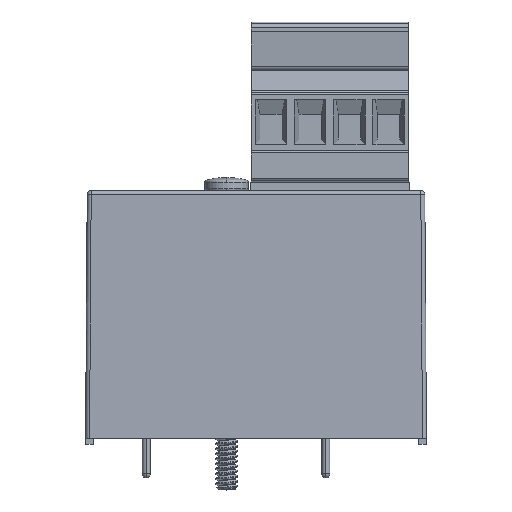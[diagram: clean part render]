
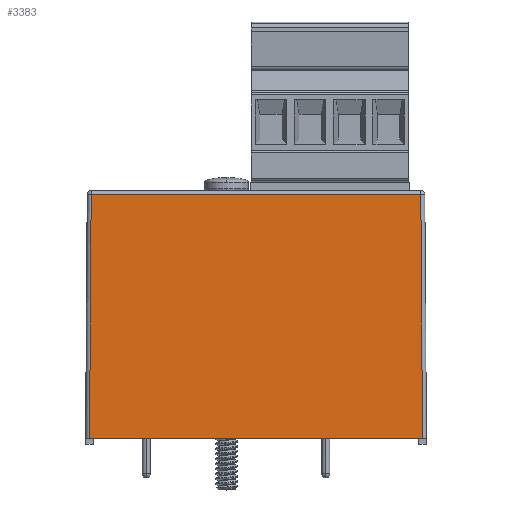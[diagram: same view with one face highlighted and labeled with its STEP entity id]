
A CAD part, top view. The second image highlights one B-rep face of the part: STEP entity #3383.
In plain terms, the highlighted planar face has unit normal (0, 0.004, 1).
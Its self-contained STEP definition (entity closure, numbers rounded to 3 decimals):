
#2663 = CARTESIAN_POINT ( 'NONE',  ( 0.513, 0.762, 3.383 ) ) ;
#2864 = ORIENTED_EDGE ( 'NONE', *, *, #49410, .F. ) ;
#3383 = ADVANCED_FACE ( 'NONE', ( #42687 ), #49051, .T. ) ;
#5004 = LINE ( 'NONE', #52422, #26329 ) ;
#6256 = EDGE_CURVE ( 'NONE', #11260, #27511, #50729, .T. ) ;
#7656 = ORIENTED_EDGE ( 'NONE', *, *, #37654, .T. ) ;
#8637 = CARTESIAN_POINT ( 'NONE',  ( 42.712, 31.794, 3.268 ) ) ;
#10764 = CARTESIAN_POINT ( 'NONE',  ( 21.717, 32.328, 3.266 ) ) ;
#11142 = DIRECTION ( 'NONE',  ( -0.007, -1., 0.004 ) ) ;
#11260 = VERTEX_POINT ( 'NONE', #55309 ) ;
#11482 = VECTOR ( 'NONE', #37336, 1000. ) ;
#12818 = LINE ( 'NONE', #49994, #11482 ) ;
#15085 = DIRECTION ( 'NONE',  ( 0., -1., 0.004 ) ) ;
#19676 = ORIENTED_EDGE ( 'NONE', *, *, #6256, .T. ) ;
#25804 = CARTESIAN_POINT ( 'NONE',  ( 42.921, 0.762, 3.383 ) ) ;
#26329 = VECTOR ( 'NONE', #31141, 1000. ) ;
#27160 = VERTEX_POINT ( 'NONE', #8637 ) ;
#27511 = VERTEX_POINT ( 'NONE', #2663 ) ;
#28420 = DIRECTION ( 'NONE',  ( -1., 0., 0. ) ) ;
#31141 = DIRECTION ( 'NONE',  ( -0.007, 1., -0.004 ) ) ;
#31211 = AXIS2_PLACEMENT_3D ( 'NONE', #10764, #40698, #15085 ) ;
#32584 = EDGE_LOOP ( 'NONE', ( #2864, #52739, #7656, #19676 ) ) ;
#36254 = VERTEX_POINT ( 'NONE', #25804 ) ;
#36676 = LINE ( 'NONE', #41173, #48004 ) ;
#37336 = DIRECTION ( 'NONE',  ( -1., 0., 0. ) ) ;
#37654 = EDGE_CURVE ( 'NONE', #27160, #11260, #36676, .T. ) ;
#38060 = VECTOR ( 'NONE', #11142, 1000. ) ;
#38759 = EDGE_CURVE ( 'NONE', #36254, #27160, #5004, .T. ) ;
#40698 = DIRECTION ( 'NONE',  ( 0., 0.004, 1. ) ) ;
#41070 = CARTESIAN_POINT ( 'NONE',  ( 0.726, 32.469, 3.265 ) ) ;
#41173 = CARTESIAN_POINT ( 'NONE',  ( 21.717, 31.794, 3.268 ) ) ;
#42687 = FACE_OUTER_BOUND ( 'NONE', #32584, .T. ) ;
#48004 = VECTOR ( 'NONE', #28420, 1000. ) ;
#49051 = PLANE ( 'NONE',  #31211 ) ;
#49410 = EDGE_CURVE ( 'NONE', #36254, #27511, #12818, .T. ) ;
#49994 = CARTESIAN_POINT ( 'NONE',  ( 21.717, 0.762, 3.383 ) ) ;
#50729 = LINE ( 'NONE', #41070, #38060 ) ;
#52422 = CARTESIAN_POINT ( 'NONE',  ( 42.708, 32.469, 3.265 ) ) ;
#52739 = ORIENTED_EDGE ( 'NONE', *, *, #38759, .T. ) ;
#55309 = CARTESIAN_POINT ( 'NONE',  ( 0.722, 31.794, 3.268 ) ) ;
